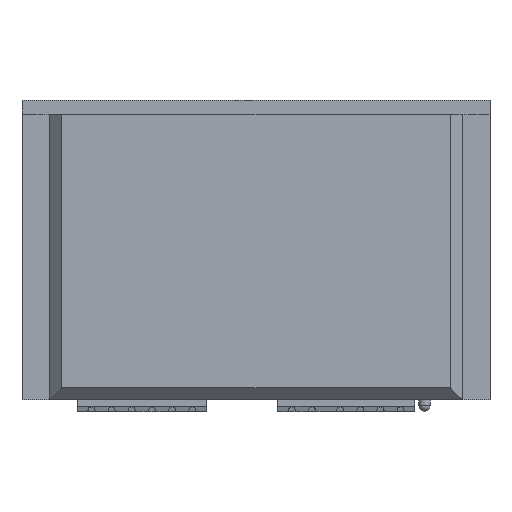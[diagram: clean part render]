
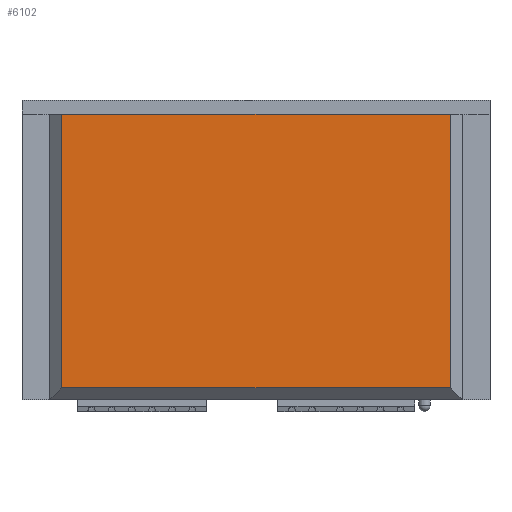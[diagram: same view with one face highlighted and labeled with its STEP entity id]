
A CAD part, left-side view. The second image highlights one B-rep face of the part: STEP entity #6102.
In plain terms, the highlighted planar face has unit normal (-1, 0, 0).
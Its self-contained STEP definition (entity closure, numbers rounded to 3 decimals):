
#838=ORIENTED_EDGE('',*,*,#2246,.T.);
#839=ORIENTED_EDGE('',*,*,#2245,.T.);
#840=ORIENTED_EDGE('',*,*,#2247,.T.);
#841=ORIENTED_EDGE('',*,*,#2248,.T.);
#2245=EDGE_CURVE('',#2998,#3000,#3680,.T.);
#2246=EDGE_CURVE('',#3001,#2998,#3681,.T.);
#2247=EDGE_CURVE('',#3000,#3002,#3682,.T.);
#2248=EDGE_CURVE('',#3002,#3001,#3683,.T.);
#2998=VERTEX_POINT('',#9116);
#3000=VERTEX_POINT('',#9120);
#3001=VERTEX_POINT('',#9124);
#3002=VERTEX_POINT('',#9126);
#3680=LINE('',#9121,#4493);
#3681=LINE('',#9123,#4494);
#3682=LINE('',#9125,#4495);
#3683=LINE('',#9127,#4496);
#4493=VECTOR('',#7391,1000.);
#4494=VECTOR('',#7394,1000.);
#4495=VECTOR('',#7395,1000.);
#4496=VECTOR('',#7396,1000.);
#5085=EDGE_LOOP('',(#838,#839,#840,#841));
#5442=FACE_BOUND('',#5085,.T.);
#5791=PLANE('',#6473);
#6102=ADVANCED_FACE('',(#5442),#5791,.F.);
#6473=AXIS2_PLACEMENT_3D('',#9122,#7392,#7393);
#7391=DIRECTION('',(0.,0.,-1.));
#7392=DIRECTION('',(1.,0.,0.));
#7393=DIRECTION('',(0.,0.,-1.));
#7394=DIRECTION('',(0.,1.,0.));
#7395=DIRECTION('',(0.,-1.,0.));
#7396=DIRECTION('',(0.,0.,1.));
#9116=CARTESIAN_POINT('',(-17.,108.,34.24));
#9120=CARTESIAN_POINT('',(-17.,108.,-34.75));
#9121=CARTESIAN_POINT('',(-17.,108.,-37.75));
#9122=CARTESIAN_POINT('',(-17.,118.,-37.75));
#9123=CARTESIAN_POINT('',(-17.,118.,34.24));
#9124=CARTESIAN_POINT('',(-17.,10.,34.24));
#9125=CARTESIAN_POINT('',(-17.,118.,-34.75));
#9126=CARTESIAN_POINT('',(-17.,10.,-34.75));
#9127=CARTESIAN_POINT('',(-17.,10.,34.24));
